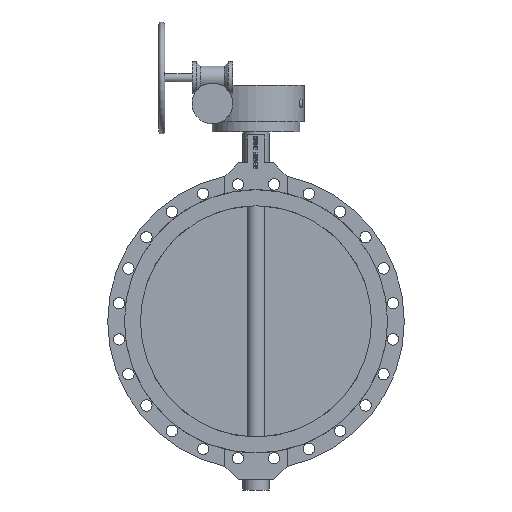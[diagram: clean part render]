
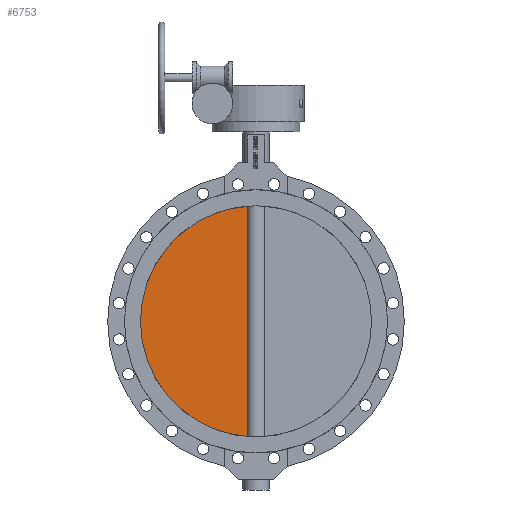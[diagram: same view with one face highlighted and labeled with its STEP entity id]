
A CAD part, left-side view. The second image highlights one B-rep face of the part: STEP entity #6753.
In plain terms, the highlighted planar face has unit normal (-1, 0, 0).
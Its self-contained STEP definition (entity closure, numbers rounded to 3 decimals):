
#6753=ADVANCED_FACE('',(#12445),#12447,.F.);
#12445=FACE_BOUND('',#12446,.T.);
#12446=EDGE_LOOP('',(#16489,#16490,#16491));
#12447=PLANE('',#12448);
#12448=AXIS2_PLACEMENT_3D('',#12449,#12450,#12451);
#12449=CARTESIAN_POINT('',(-15.,0.,0.));
#12450=DIRECTION('',(1.,0.,0.));
#12451=DIRECTION('',(0.,1.,0.));
#16489=ORIENTED_EDGE('',*,*,#18780,.T.);
#16490=ORIENTED_EDGE('',*,*,#18365,.T.);
#16491=ORIENTED_EDGE('',*,*,#18369,.T.);
#18365=EDGE_CURVE('',#21644,#21645,#21646,.F.);
#18369=EDGE_CURVE('',#21645,#21651,#21653,.F.);
#18780=EDGE_CURVE('',#21651,#21644,#22272,.F.);
#21644=VERTEX_POINT('',#32049);
#21645=VERTEX_POINT('',#32050);
#21646=CIRCLE('',#32051,397.35);
#21651=VERTEX_POINT('',#32135);
#21653=CIRCLE('',#32210,397.35);
#22272=LINE('',#33964,#33965);
#32049=CARTESIAN_POINT('',(-15.,29.394,396.261));
#32050=CARTESIAN_POINT('',(-15.,397.35,0.));
#32051=AXIS2_PLACEMENT_3D('',#32052,#32053,#32054);
#32052=CARTESIAN_POINT('',(-15.,0.,0.));
#32053=DIRECTION('',(1.,0.,0.));
#32054=DIRECTION('',(0.,1.,0.));
#32135=CARTESIAN_POINT('',(-15.,29.394,-396.261));
#32210=AXIS2_PLACEMENT_3D('',#32211,#32212,#32213);
#32211=CARTESIAN_POINT('',(-15.,0.,0.));
#32212=DIRECTION('',(1.,0.,0.));
#32213=DIRECTION('',(0.,0.074,-0.997));
#33964=CARTESIAN_POINT('',(-15.,29.394,396.261));
#33965=VECTOR('',#33966,1.);
#33966=DIRECTION('',(0.,0.,-1.));
